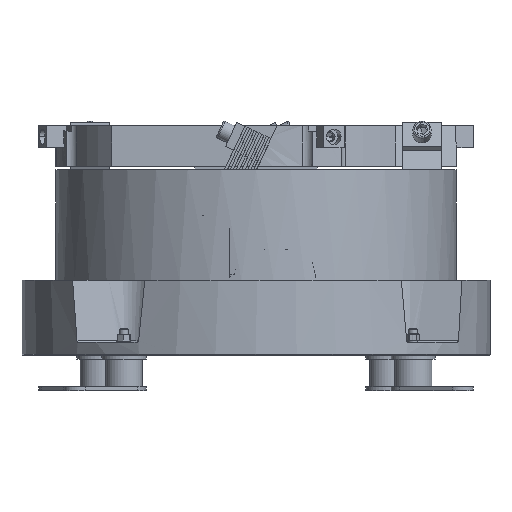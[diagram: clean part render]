
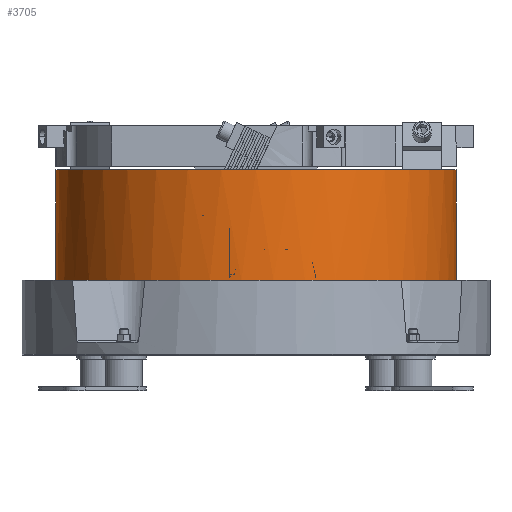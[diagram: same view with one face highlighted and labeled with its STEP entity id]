
A CAD part, front view. The second image highlights one B-rep face of the part: STEP entity #3705.
In plain terms, the highlighted cylindrical face has radius 226.5 mm (diameter 453 mm), a partial arc.
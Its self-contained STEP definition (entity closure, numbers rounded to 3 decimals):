
#2842=CYLINDRICAL_SURFACE('',#22869,226.5);
#3705=ADVANCED_FACE('NONE',(#4926),#2842,.T.);
#4926=FACE_OUTER_BOUND('',#6157,.T.);
#6157=EDGE_LOOP('',(#13875,#13876,#13877,#13878,#13879,#13880,#13881,#13882));
#7644=LINE('',#34261,#9316);
#7645=LINE('',#34265,#9317);
#9316=VECTOR('',#27234,1.);
#9317=VECTOR('',#27237,1.);
#13875=ORIENTED_EDGE('',*,*,#19437,.F.);
#13876=ORIENTED_EDGE('',*,*,#19556,.F.);
#13877=ORIENTED_EDGE('',*,*,#19605,.T.);
#13878=ORIENTED_EDGE('',*,*,#19569,.F.);
#13879=ORIENTED_EDGE('',*,*,#19606,.T.);
#13880=ORIENTED_EDGE('',*,*,#19581,.F.);
#13881=ORIENTED_EDGE('',*,*,#19439,.T.);
#13882=ORIENTED_EDGE('',*,*,#19607,.T.);
#16962=VERTEX_POINT('',#34259);
#16964=VERTEX_POINT('',#34262);
#16965=VERTEX_POINT('',#34264);
#16966=VERTEX_POINT('',#34266);
#17047=VERTEX_POINT('',#34724);
#17050=VERTEX_POINT('',#34755);
#17051=VERTEX_POINT('',#34828);
#17054=VERTEX_POINT('',#34855);
#19437=EDGE_CURVE('NONE',#16962,#16964,#7644,.T.);
#19439=EDGE_CURVE('NONE',#16966,#16965,#7645,.T.);
#19556=EDGE_CURVE('NONE',#17047,#16962,#21152,.T.);
#19569=EDGE_CURVE('NONE',#17051,#17050,#21153,.T.);
#19581=EDGE_CURVE('NONE',#16966,#17054,#21154,.T.);
#19605=EDGE_CURVE('NONE',#17047,#17050,#21158,.T.);
#19606=EDGE_CURVE('NONE',#17051,#17054,#21159,.T.);
#19607=EDGE_CURVE('NONE',#16965,#16964,#21160,.T.);
#21152=CIRCLE('',#22843,226.5);
#21153=CIRCLE('',#22847,226.5);
#21154=CIRCLE('',#22851,226.5);
#21158=CIRCLE('',#22866,226.5);
#21159=CIRCLE('',#22867,226.5);
#21160=CIRCLE('',#22868,226.5);
#22843=AXIS2_PLACEMENT_3D('',#34725,#27458,#27459);
#22847=AXIS2_PLACEMENT_3D('',#34829,#27470,#27471);
#22851=AXIS2_PLACEMENT_3D('',#34928,#27482,#27483);
#22866=AXIS2_PLACEMENT_3D('',#35127,#27520,#27521);
#22867=AXIS2_PLACEMENT_3D('',#35128,#27522,#27523);
#22868=AXIS2_PLACEMENT_3D('',#35129,#27524,#27525);
#22869=AXIS2_PLACEMENT_3D('',#35130,#27526,#27527);
#27234=DIRECTION('',(0.,0.,1.));
#27237=DIRECTION('',(0.,0.,1.));
#27458=DIRECTION('',(0.,0.,-1.));
#27459=DIRECTION('',(1.,0.,0.));
#27470=DIRECTION('',(0.,0.,-1.));
#27471=DIRECTION('',(1.,0.,0.));
#27482=DIRECTION('',(0.,0.,-1.));
#27483=DIRECTION('',(1.,0.,0.));
#27520=DIRECTION('',(0.,0.,1.));
#27521=DIRECTION('',(1.,0.,0.));
#27522=DIRECTION('',(0.,0.,1.));
#27523=DIRECTION('',(1.,0.,0.));
#27524=DIRECTION('',(0.,0.,-1.));
#27525=DIRECTION('',(1.,0.,0.));
#27526=DIRECTION('',(0.,0.,1.));
#27527=DIRECTION('',(1.,0.,0.));
#34259=CARTESIAN_POINT('',(-315.505,16.174,-25.));
#34261=CARTESIAN_POINT('',(-315.505,16.174,-25.));
#34262=CARTESIAN_POINT('',(-315.505,16.174,100.));
#34264=CARTESIAN_POINT('',(137.495,16.174,100.));
#34265=CARTESIAN_POINT('',(137.495,16.174,-25.));
#34266=CARTESIAN_POINT('',(137.495,16.174,-25.));
#34724=CARTESIAN_POINT('',(-258.239,-134.364,-25.));
#34725=CARTESIAN_POINT('',(-89.005,16.174,-25.));
#34755=CARTESIAN_POINT('',(-207.87,-176.63,-25.));
#34828=CARTESIAN_POINT('',(61.534,-153.06,-25.));
#34829=CARTESIAN_POINT('',(-89.005,16.174,-25.));
#34855=CARTESIAN_POINT('',(103.799,-102.69,-25.));
#34928=CARTESIAN_POINT('',(-89.005,16.174,-25.));
#35127=CARTESIAN_POINT('',(-89.005,16.174,-25.));
#35128=CARTESIAN_POINT('',(-89.005,16.174,-25.));
#35129=CARTESIAN_POINT('',(-89.005,16.174,100.));
#35130=CARTESIAN_POINT('',(-89.005,16.174,-25.));
